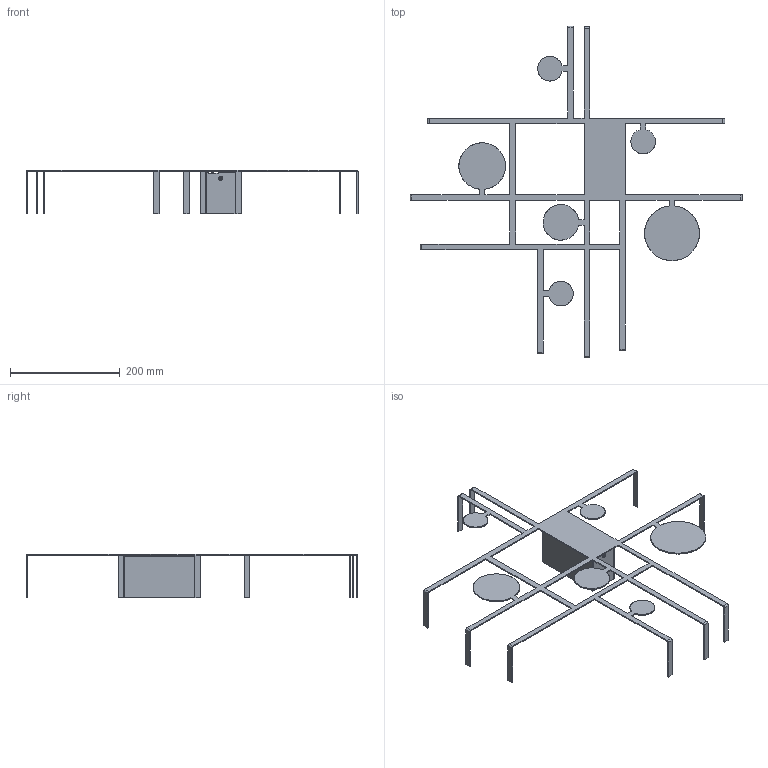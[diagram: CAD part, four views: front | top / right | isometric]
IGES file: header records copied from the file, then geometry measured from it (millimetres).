
Start section: SolidWorks IGES file using analytic representation for surfaces
Global section: file name: \\STORAGE\Tecnico Condiviso\1 FASCICOLI TECNICI\AXO DESIGN\AXO088-MANIFESTO\APMANIFESTOX2XX\APMANIFESTOX2XX-Rev 01-PER 3D.IGS; native system: SolidWorks 2024; preprocessor: SolidWorks 2024; author: tecnico3; date: 240528.090923; units: millimetre
Bounding box: 605.25 x 604.58 x 80 mm (x, y, z)
Surface area: 224054.4 mm2 (no closed solid volume)
Topology: 0 solids, 0 shells, 359 faces, 3696 edges, 3692 vertices
Faces by surface type: bspline 254, revolution 105
